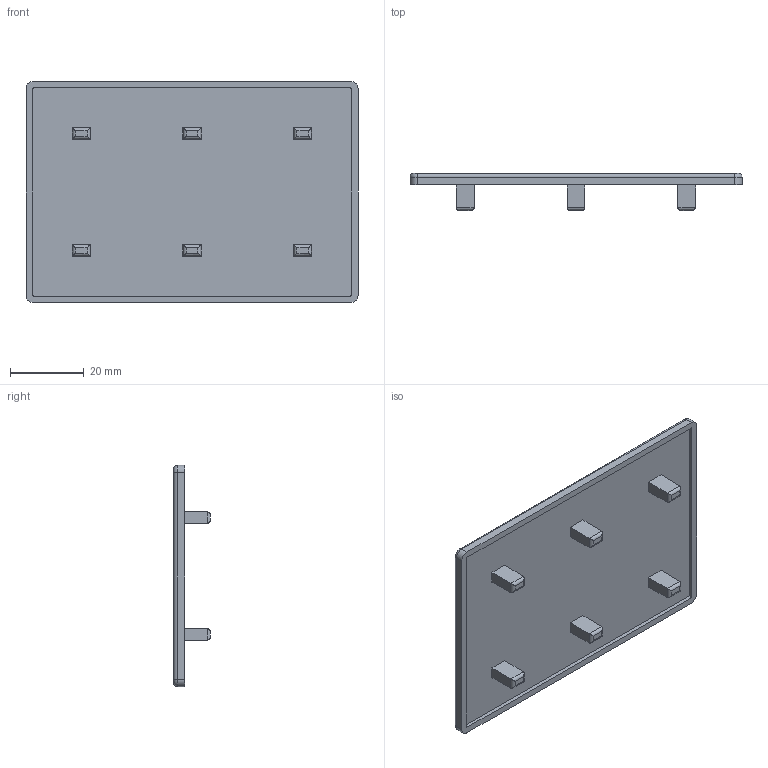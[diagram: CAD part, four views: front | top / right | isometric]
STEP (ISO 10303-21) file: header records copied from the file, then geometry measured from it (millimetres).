
FILE_DESCRIPTION (( 'STEP AP214' ), '1' );
FILE_NAME ('J3C69.step', '2017-05-24T07:38:38', ( 'admin' ), ( '' ), 'SwSTEP 2.0', 'SolidWorks 2014', '' );
FILE_SCHEMA (( 'AUTOMOTIVE_DESIGN' ));
Length unit declared in the file: millimetre
Products named in the file (1): J3C69
Bounding box: 90 x 10 x 60 mm (x, y, z)
Volume: 11962.6 mm3; surface area: 12560.6 mm2
Topology: 1 solids, 1 shells, 81 faces, 184 edges, 112 vertices
Faces by surface type: plane 41, cylinder 36, torus 4
Entity records: 2244 total; most frequent: CARTESIAN_POINT 450, ORIENTED_EDGE 368, DIRECTION 352, EDGE_CURVE 184, LINE 132, VECTOR 132, VERTEX_POINT 112, AXIS2_PLACEMENT_3D 110
